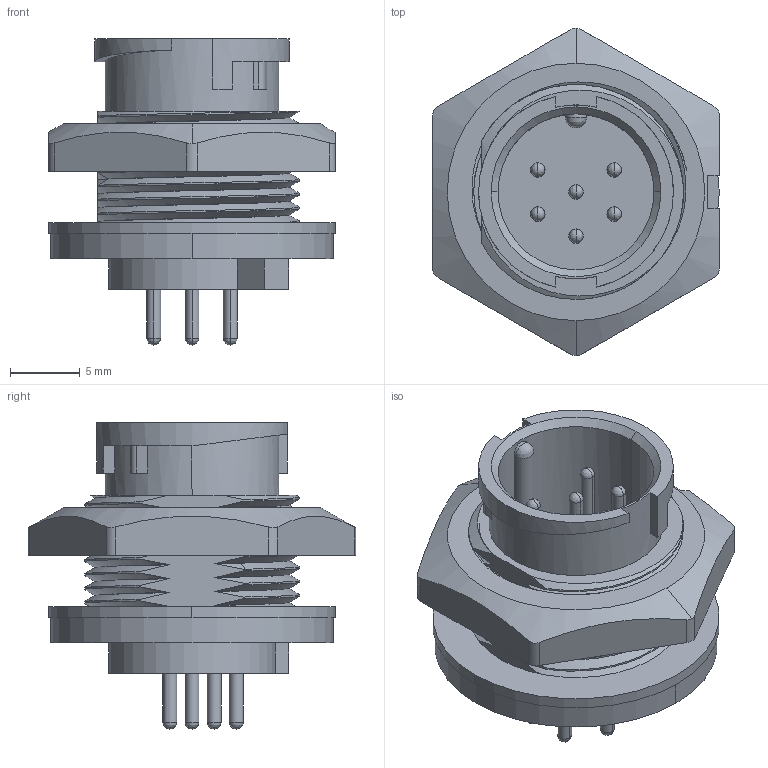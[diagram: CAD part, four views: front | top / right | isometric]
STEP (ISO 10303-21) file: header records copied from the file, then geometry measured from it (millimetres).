
FILE_DESCRIPTION (( 'STEP AP203' ), '1' );
FILE_NAME ('870-006-113R001.STEP', '2024-06-14T18:50:20', ( '' ), ( '' ), 'SwSTEP 2.0', 'SolidWorks 2020', '' );
FILE_SCHEMA (( 'CONFIG_CONTROL_DESIGN' ));
Length unit declared in the file: millimetre
Products named in the file (1): 870-006-113R001
Bounding box: 20.6 x 23.54 x 22 mm (x, y, z)
Volume: 2633.1 mm3; surface area: 3617.2 mm2
Topology: 2 solids, 2 shells, 276 faces, 710 edges, 418 vertices
Faces by surface type: cylinder 111, bspline 69, plane 55, cone 41
Entity records: 14339 total; most frequent: CARTESIAN_POINT 8317, ORIENTED_EDGE 1320, DIRECTION 1092, EDGE_CURVE 660, AXIS2_PLACEMENT_3D 446, VERTEX_POINT 418, EDGE_LOOP 308, ADVANCED_FACE 276
